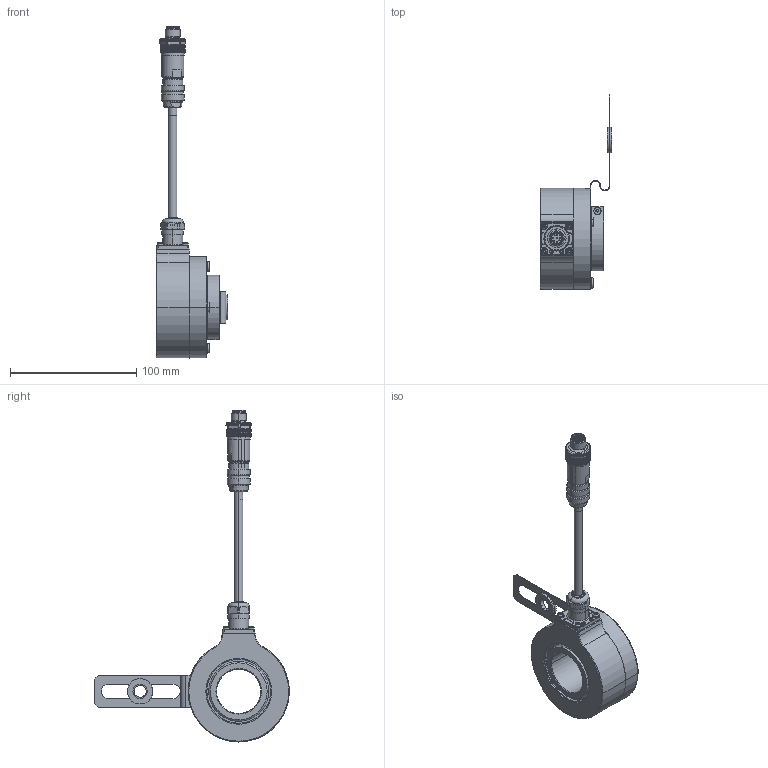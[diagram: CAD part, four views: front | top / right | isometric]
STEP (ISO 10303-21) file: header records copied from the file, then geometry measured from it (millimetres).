
FILE_DESCRIPTION (( 'STEP AP203' ), '1' );
FILE_NAME ('K80I.OXX.XXXXX.XH1D835.6XR12.XXXX.step', '2025-12-09T09:03:19', ( '' ), ( '' ), 'SwSTEP 2.0', 'SolidWorks 2021', '' );
FILE_SCHEMA (( 'CONFIG_CONTROL_DESIGN' ));
Length unit declared in the file: millimetre
Products named in the file (1): K80I.OXX.XXXXX.XH1D835.6XR12.XXXX
Bounding box: 56.5 x 154.07 x 262.56 mm (x, y, z)
Volume: 203561.7 mm3; surface area: 75819.1 mm2
Topology: 18 solids, 18 shells, 1683 faces, 4184 edges, 2562 vertices
Faces by surface type: cylinder 629, plane 618, cone 311, bspline 60, torus 33, sphere 32
Entity records: 53749 total; most frequent: CARTESIAN_POINT 14620, ORIENTED_EDGE 8288, DIRECTION 8130, EDGE_CURVE 4144, AXIS2_PLACEMENT_3D 3224, VERTEX_POINT 2546, EDGE_LOOP 1792, FACE_OUTER_BOUND 1683
